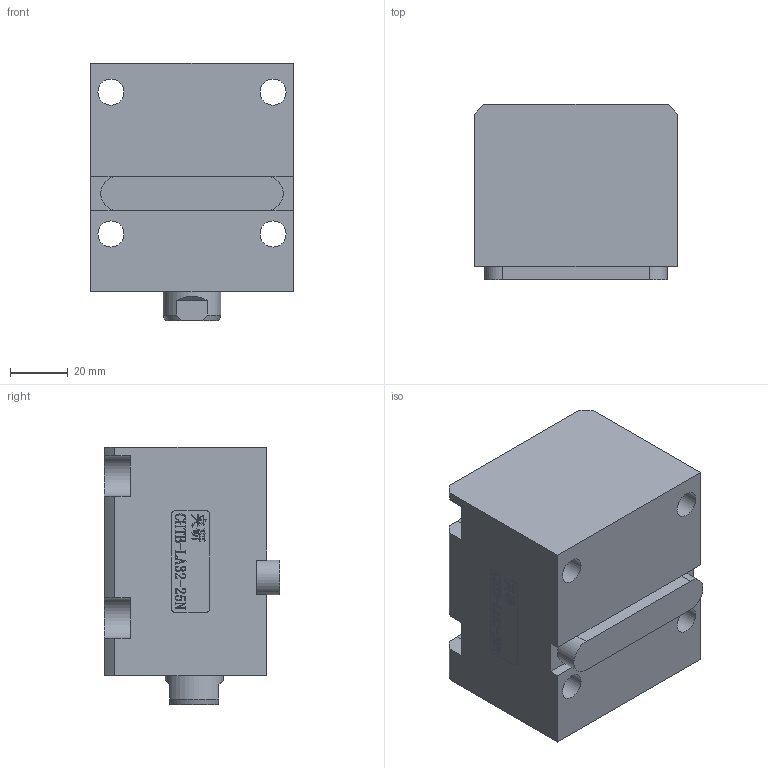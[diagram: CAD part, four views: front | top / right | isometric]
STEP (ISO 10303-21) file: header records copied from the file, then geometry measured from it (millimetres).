
FILE_DESCRIPTION(/* description */ (''),/* implementation_level */ '2;1');
FILE_NAME(/* name */ 'CHTB-LA32-25N.stp',/* time_stamp */ '2022-04-29T16:03:13+08:00',/* author */ (''),/* organization */ (''),/* preprocessor_version */ 'ST-DEVELOPER v16.7',/* originating_system */ 'SIEMENS PLM Software NX 12.0',/* authorisation */ '');
FILE_SCHEMA (('AUTOMOTIVE_DESIGN { 1 0 10303 214 3 1 1 1 }'));
Length unit declared in the file: millimetre
Products named in the file (1): CHTB-LA32-25N
Bounding box: 70 x 60.5 x 89 mm (x, y, z)
Volume: 277016.6 mm3; surface area: 59454.8 mm2
Topology: 3 solids, 3 shells, 433 faces, 1209 edges, 816 vertices
Faces by surface type: plane 280, extrusion 80, cylinder 39, torus 12, cone 12, bspline 10
Full cylindrical faces by diameter (mm): 3 x2, 4 x2, 9 x4, 10.5 x1, 10.7 x2, 20 x2, 24 x1, 24.5 x1, 26 x1, 32 x4, 40 x1
Entity records: 21032 total; most frequent: CARTESIAN_POINT 8344, ORIENTED_EDGE 2312, DIRECTION 1764, EDGE_CURVE 1156, VECTOR 884, VERTEX_POINT 807, LINE 804, EDGE_LOOP 522
